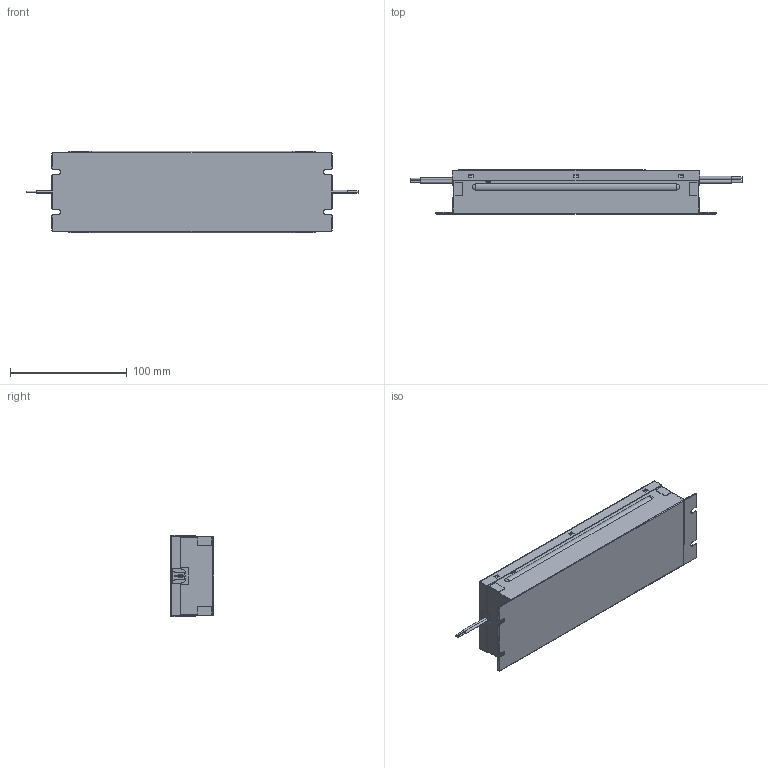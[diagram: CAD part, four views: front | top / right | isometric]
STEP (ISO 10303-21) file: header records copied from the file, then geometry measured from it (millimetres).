
FILE_DESCRIPTION((''),'2;1');
FILE_NAME('USVI-240024FR_ASM','2022-11-30T13:19:18',('JACKY.LEE'),(''),'CREO PARAMETRIC BY PTC INC, 2018400','CREO PARAMETRIC BY PTC INC, 2018400','');
FILE_SCHEMA(('CONFIG_CONTROL_DESIGN','GEOMETRIC_VALIDATION_PROPERTIES_MIM'));
Length unit declared in the file: millimetre
Products named in the file (12): BASE; COVER; LABEL; STRAIN-RELIEF_3230013300; WIRE_UL1316_18AWG_BLACK_WHITE; STRAIN-RELIEF_3231121700; WIRE_UL1316_14AWG_RED_BLUE; MYLAR-BOTTOM; ASPHALT; MYLAR-TOP; GND_WIRE; USVI-240024FR_ASM
Assembly tree (12 placements, depth 2):
  USVI-240024FR_ASM
    BASE
    COVER
    LABEL
    STRAIN-RELIEF_3230013300
    WIRE_UL1316_18AWG_BLACK_WHITE
    STRAIN-RELIEF_3231121700
    WIRE_UL1316_14AWG_RED_BLUE
    MYLAR-BOTTOM
    ASPHALT
    MYLAR-TOP
    GND_WIRE  x2
Bounding box: 283.9 x 37.58 x 70 mm (x, y, z)
Volume: 492842.4 mm3; surface area: 275816.6 mm2
Topology: 14 solids, 14 shells, 771 faces, 1911 edges, 1162 vertices
Faces by surface type: plane 504, cylinder 197, bspline 42, sphere 24, torus 4
Entity records: 29687 total; most frequent: CARTESIAN_POINT 5605, ORIENTED_EDGE 3746, DIRECTION 3667, EDGE_CURVE 1873, PRESENTATION_STYLE_ASSIGNMENT 1790, STYLED_ITEM 1790, CURVE_STYLE 1768, VECTOR 1427
